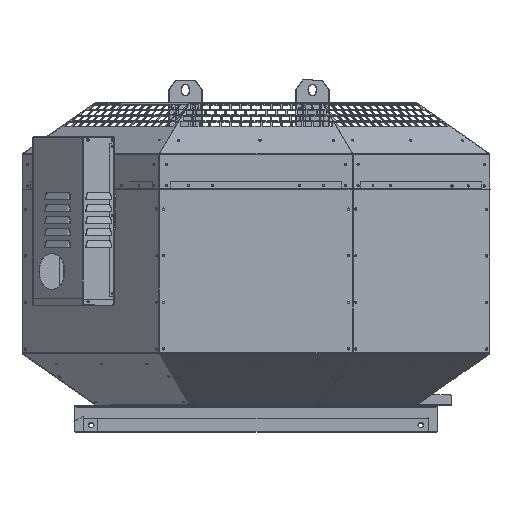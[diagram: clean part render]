
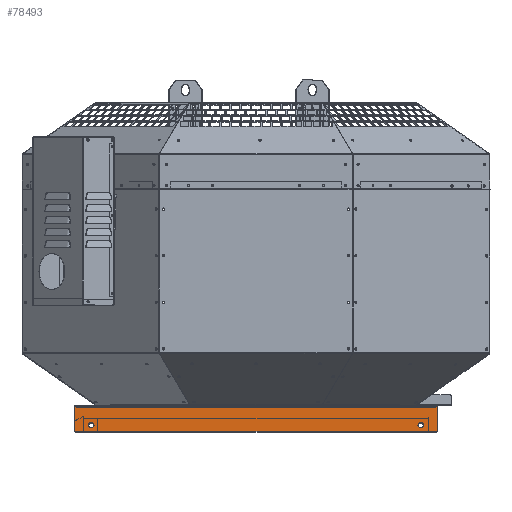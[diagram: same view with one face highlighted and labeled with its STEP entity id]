
A CAD part, top view. The second image highlights one B-rep face of the part: STEP entity #78493.
In plain terms, the highlighted planar face has unit normal (0, 0, 1).
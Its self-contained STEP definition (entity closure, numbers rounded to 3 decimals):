
#6612 = CARTESIAN_POINT ( 'NONE',  ( 312.45, 17.6, 301.1 ) ) ;
#7423 = EDGE_CURVE ( 'NONE', #87801, #141507, #54965, .T. ) ;
#7840 = CARTESIAN_POINT ( 'NONE',  ( 309.45, -21., 301.1 ) ) ;
#8270 = CARTESIAN_POINT ( 'NONE',  ( -312.45, 17.6, 301.1 ) ) ;
#9030 = DIRECTION ( 'NONE',  ( 0., 0., 1. ) ) ;
#9367 = VECTOR ( 'NONE', #84710, 1000. ) ;
#12029 = VERTEX_POINT ( 'NONE', #16407 ) ;
#12869 = DIRECTION ( 'NONE',  ( 0., 0., 1. ) ) ;
#13213 = ORIENTED_EDGE ( 'NONE', *, *, #7423, .F. ) ;
#14593 = CARTESIAN_POINT ( 'NONE',  ( -283., -17.7, 301.1 ) ) ;
#15627 = VECTOR ( 'NONE', #83066, 1000. ) ;
#16407 = CARTESIAN_POINT ( 'NONE',  ( -312.45, 17.6, 301.1 ) ) ;
#17148 = CARTESIAN_POINT ( 'NONE',  ( 283., -13.2, 301.1 ) ) ;
#18787 = DIRECTION ( 'NONE',  ( 0., -1., 0. ) ) ;
#20995 = CARTESIAN_POINT ( 'NONE',  ( -283., -8.7, 301.1 ) ) ;
#24945 = EDGE_LOOP ( 'NONE', ( #13213, #77940 ) ) ;
#25823 = AXIS2_PLACEMENT_3D ( 'NONE', #74529, #9030, #85442 ) ;
#29284 = ORIENTED_EDGE ( 'NONE', *, *, #50253, .F. ) ;
#29858 = CARTESIAN_POINT ( 'NONE',  ( 309.05, 17.6, 301.1 ) ) ;
#30315 = CIRCLE ( 'NONE', #25823, 4.5 ) ;
#33000 = CARTESIAN_POINT ( 'NONE',  ( -312.45, -21., 301.1 ) ) ;
#35579 = VERTEX_POINT ( 'NONE', #86389 ) ;
#36925 = LINE ( 'NONE', #137106, #59116 ) ;
#37033 = VECTOR ( 'NONE', #82932, 1000. ) ;
#40556 = FACE_BOUND ( 'NONE', #140804, .T. ) ;
#43435 = EDGE_CURVE ( 'NONE', #12029, #109061, #89691, .T. ) ;
#46943 = CARTESIAN_POINT ( 'NONE',  ( -283., -13.2, 301.1 ) ) ;
#48764 = AXIS2_PLACEMENT_3D ( 'NONE', #46943, #123282, #57899 ) ;
#49856 = DIRECTION ( 'NONE',  ( -1., 0., 0. ) ) ;
#50253 = EDGE_CURVE ( 'NONE', #94513, #67836, #132987, .T. ) ;
#51265 = ORIENTED_EDGE ( 'NONE', *, *, #85372, .F. ) ;
#52624 = EDGE_CURVE ( 'NONE', #125191, #66026, #61807, .T. ) ;
#54137 = ORIENTED_EDGE ( 'NONE', *, *, #64062, .F. ) ;
#54965 = CIRCLE ( 'NONE', #120614, 4.5 ) ;
#56627 = EDGE_CURVE ( 'NONE', #66026, #12029, #36925, .T. ) ;
#57386 = DIRECTION ( 'NONE',  ( 0., 0., 1. ) ) ;
#57899 = DIRECTION ( 'NONE',  ( 0., -1., 0. ) ) ;
#58352 = VECTOR ( 'NONE', #104027, 1000. ) ;
#59116 = VECTOR ( 'NONE', #49856, 1000. ) ;
#59292 = CARTESIAN_POINT ( 'NONE',  ( -309.45, -21., 301.1 ) ) ;
#61807 = LINE ( 'NONE', #125569, #58352 ) ;
#62361 = EDGE_CURVE ( 'NONE', #141507, #87801, #30315, .T. ) ;
#64062 = EDGE_CURVE ( 'NONE', #35579, #123507, #102753, .T. ) ;
#65033 = VECTOR ( 'NONE', #89083, 1000. ) ;
#66026 = VERTEX_POINT ( 'NONE', #127821 ) ;
#66105 = CARTESIAN_POINT ( 'NONE',  ( 283., -17.7, 301.1 ) ) ;
#66138 = LINE ( 'NONE', #126310, #37033 ) ;
#66397 = ORIENTED_EDGE ( 'NONE', *, *, #56627, .T. ) ;
#67186 = EDGE_CURVE ( 'NONE', #113361, #123507, #69597, .T. ) ;
#67836 = VERTEX_POINT ( 'NONE', #20995 ) ;
#69597 = CIRCLE ( 'NONE', #99225, 3. ) ;
#70295 = DIRECTION ( 'NONE',  ( 0., -1., 0. ) ) ;
#73043 = ORIENTED_EDGE ( 'NONE', *, *, #67186, .T. ) ;
#73386 = CIRCLE ( 'NONE', #108588, 3. ) ;
#74529 = CARTESIAN_POINT ( 'NONE',  ( 283., -13.2, 301.1 ) ) ;
#76109 = AXIS2_PLACEMENT_3D ( 'NONE', #122754, #57386, #133640 ) ;
#77687 = CARTESIAN_POINT ( 'NONE',  ( 294.55, 17.6, 301.1 ) ) ;
#77940 = ORIENTED_EDGE ( 'NONE', *, *, #62361, .F. ) ;
#78493 = ADVANCED_FACE ( 'NONE', ( #131029, #40556, #127634 ), #111163, .T. ) ;
#79902 = CARTESIAN_POINT ( 'NONE',  ( 309.45, -24., 301.1 ) ) ;
#82148 = DIRECTION ( 'NONE',  ( 0., -1., 0. ) ) ;
#82932 = DIRECTION ( 'NONE',  ( -1., 0., 0. ) ) ;
#83066 = DIRECTION ( 'NONE',  ( 0., -1., 0. ) ) ;
#84260 = DIRECTION ( 'NONE',  ( 0., 0., 1. ) ) ;
#84710 = DIRECTION ( 'NONE',  ( 0., -1., 0. ) ) ;
#85372 = EDGE_CURVE ( 'NONE', #125191, #35579, #94018, .T. ) ;
#85442 = DIRECTION ( 'NONE',  ( 0., -1., 0. ) ) ;
#86389 = CARTESIAN_POINT ( 'NONE',  ( 312.45, 17.6, 301.1 ) ) ;
#87801 = VERTEX_POINT ( 'NONE', #66105 ) ;
#89083 = DIRECTION ( 'NONE',  ( 1., 0., 0. ) ) ;
#89691 = LINE ( 'NONE', #8270, #9367 ) ;
#91951 = EDGE_CURVE ( 'NONE', #109061, #94406, #73386, .T. ) ;
#94018 = LINE ( 'NONE', #77687, #65033 ) ;
#94406 = VERTEX_POINT ( 'NONE', #100088 ) ;
#94513 = VERTEX_POINT ( 'NONE', #14593 ) ;
#96191 = ORIENTED_EDGE ( 'NONE', *, *, #106346, .F. ) ;
#98686 = EDGE_CURVE ( 'NONE', #67836, #94513, #99460, .T. ) ;
#99225 = AXIS2_PLACEMENT_3D ( 'NONE', #7840, #84260, #18787 ) ;
#99460 = CIRCLE ( 'NONE', #76109, 4.5 ) ;
#100088 = CARTESIAN_POINT ( 'NONE',  ( -309.45, -24., 301.1 ) ) ;
#100229 = CARTESIAN_POINT ( 'NONE',  ( -294.55, 19.5, 301.1 ) ) ;
#102753 = LINE ( 'NONE', #6612, #15627 ) ;
#104027 = DIRECTION ( 'NONE',  ( -1., 0., 0. ) ) ;
#106346 = EDGE_CURVE ( 'NONE', #113361, #94406, #66138, .T. ) ;
#107756 = ORIENTED_EDGE ( 'NONE', *, *, #98686, .F. ) ;
#108588 = AXIS2_PLACEMENT_3D ( 'NONE', #59292, #135574, #70295 ) ;
#109061 = VERTEX_POINT ( 'NONE', #33000 ) ;
#111163 = PLANE ( 'NONE',  #134504 ) ;
#112652 = ORIENTED_EDGE ( 'NONE', *, *, #91951, .T. ) ;
#112932 = ORIENTED_EDGE ( 'NONE', *, *, #52624, .T. ) ;
#113361 = VERTEX_POINT ( 'NONE', #79902 ) ;
#118090 = EDGE_LOOP ( 'NONE', ( #135767, #112652, #96191, #73043, #54137, #51265, #112932, #66397 ) ) ;
#120614 = AXIS2_PLACEMENT_3D ( 'NONE', #17148, #131765, #82148 ) ;
#122199 = DIRECTION ( 'NONE',  ( 0., -1., 0. ) ) ;
#122754 = CARTESIAN_POINT ( 'NONE',  ( -283., -13.2, 301.1 ) ) ;
#123282 = DIRECTION ( 'NONE',  ( 0., 0., 1. ) ) ;
#123398 = CARTESIAN_POINT ( 'NONE',  ( 283., -8.7, 301.1 ) ) ;
#123507 = VERTEX_POINT ( 'NONE', #130071 ) ;
#125191 = VERTEX_POINT ( 'NONE', #29858 ) ;
#125569 = CARTESIAN_POINT ( 'NONE',  ( -294.55, 17.6, 301.1 ) ) ;
#126310 = CARTESIAN_POINT ( 'NONE',  ( -294.55, -24., 301.1 ) ) ;
#127634 = FACE_OUTER_BOUND ( 'NONE', #118090, .T. ) ;
#127821 = CARTESIAN_POINT ( 'NONE',  ( -309.05, 17.6, 301.1 ) ) ;
#130071 = CARTESIAN_POINT ( 'NONE',  ( 312.45, -21., 301.1 ) ) ;
#131029 = FACE_BOUND ( 'NONE', #24945, .T. ) ;
#131765 = DIRECTION ( 'NONE',  ( 0., 0., 1. ) ) ;
#132987 = CIRCLE ( 'NONE', #48764, 4.5 ) ;
#133640 = DIRECTION ( 'NONE',  ( 0., -1., 0. ) ) ;
#134504 = AXIS2_PLACEMENT_3D ( 'NONE', #100229, #12869, #122199 ) ;
#135574 = DIRECTION ( 'NONE',  ( 0., 0., 1. ) ) ;
#135767 = ORIENTED_EDGE ( 'NONE', *, *, #43435, .T. ) ;
#137106 = CARTESIAN_POINT ( 'NONE',  ( -294.55, 17.6, 301.1 ) ) ;
#140804 = EDGE_LOOP ( 'NONE', ( #29284, #107756 ) ) ;
#141507 = VERTEX_POINT ( 'NONE', #123398 ) ;
